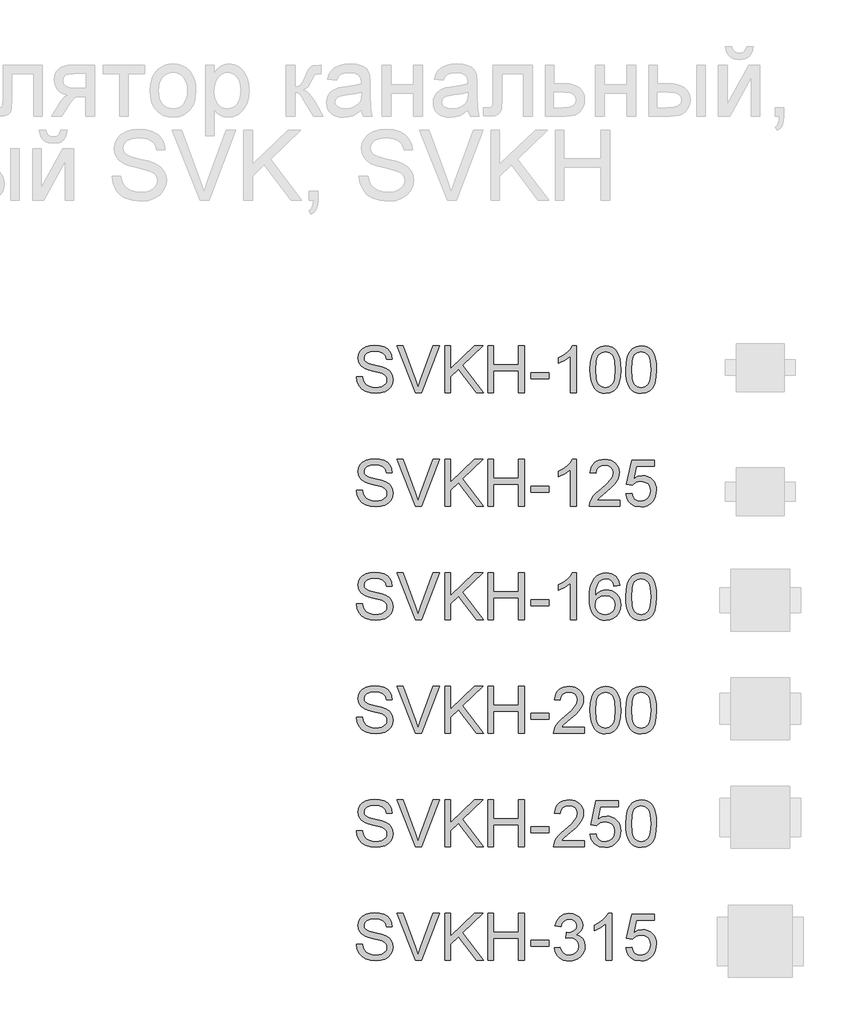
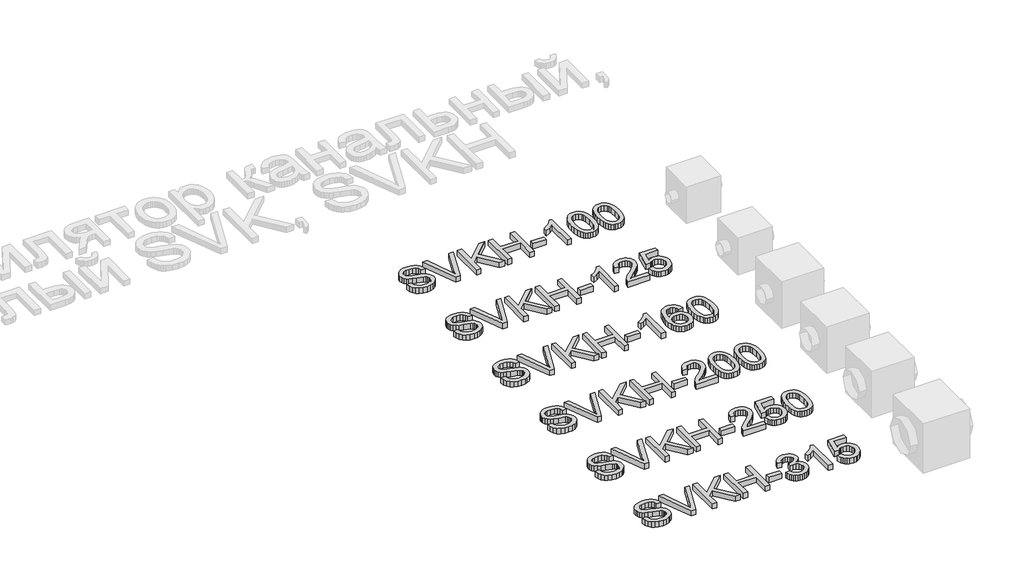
# One storey, part 16 of 31: 1 proxy.
"""IFC4 building model written with IfcOpenShell, lengths in millimetres."""

from ifc_helpers import new_model, si_unit, origin, origin_with_axes, place, context, project, spatial, polyline, outline, extrude, element, save

model = new_model("IFC4")

# Units and contexts
model_context = context("Model", 3, world=origin())
ifc_project = project(units=[si_unit("LENGTHUNIT", "METRE", prefix="MILLI")], contexts=[model_context])

# Site, building, storey
site = spatial("IfcSite", under=ifc_project)
building = spatial("IfcBuilding", under=site)
storey = spatial("IfcBuildingStorey", under=building, Name="Этаж 01", Elevation=0.0)

# Proxy
placement = place(None, origin())
element("IfcBuildingElementProxy", 1, Name="300 мм Arial", ObjectType="300 мм Arial", at=placement, inside=storey, context=model_context, shape_type="SweptSolid", body=[
    extrude(outline(polyline([(4862.603324, -4158.3827282), (4900.2744403, -4158.3827282), (4904.5970538, -4179.2876225), (4912.4145462, -4196.0906327), (4924.6098343, -4209.426355), (4942.065835, -4219.9293859), (4963.4029907, -4226.7443999), (4987.241744, -4229.0160712), (5008.2294118, -4227.2962229), (5026.6051175, -4222.1366779), (5041.4951412, -4213.9696976), (5052.0257633, -4203.2275434), (5058.2889543, -4190.8942995), (5060.3766846, -4177.9540503), (5058.8131861, -4165.3448949), (5054.1226907, -4154.4463908), (5044.594547, -4145.1481734), (5028.5181038, -4137.339878), (4973.6668984, -4122.955692), (4937.6604481, -4113.4367454), (4914.6218381, -4104.3776513), (4895.8690534, -4091.7041165), (4882.5793163, -4076.3450432), (4874.6606564, -4058.6315252), (4872.0211031, -4038.8946561), (4875.2860558, -4016.8309335), (4885.0809139, -3996.2571329), (4901.1481601, -3978.8195263), (4923.2302768, -3966.1643857), (4949.7361746, -3958.4664549), (4979.0747637, -3955.900478), (5010.8597681, -3958.5860166), (5038.6716469, -3966.6426323), (5061.5171188, -3979.9047782), (5078.4029024, -3998.2069075), (5089.0898743, -4020.4085859), (5093.3389114, -4045.3693792), (5055.6677951, -4045.3693792), (5048.7516136, -4022.8917893), (5034.3306394, -4006.6681933), (5011.7978672, -3996.8457441), (4980.5462917, -3993.5715943), (4948.5589522, -3996.8089559), (4926.6147912, -4006.5210405), (4913.9228623, -4020.8132561), (4909.6922194, -4037.7910101), (4912.6904577, -4052.2671666), (4921.6851724, -4063.9106318), (4942.9487518, -4074.3216923), (4983.195042, -4084.9534819), (5024.7289193, -4095.0518427), (5049.8552596, -4103.8626165), (5071.330371, -4117.5294326), (5086.3123653, -4134.3968221), (5095.113942, -4154.2808439), (5098.0478009, -4176.9975571), (5094.6724836, -4200.2201081), (5084.5465317, -4222.0631015), (5068.0838124, -4240.8618715), (5045.698193, -4254.9517519), (5018.778428, -4263.7533286), (4988.713272, -4266.6871875), (4951.8055108, -4263.5234024), (4921.427655, -4254.0320469), (4897.2302168, -4238.1763329), (4878.8637082, -4215.9194722), (4867.0730903, -4188.8065692), (4862.603324, -4158.3827282)])), origin_with_axes(), (0.0, 0.0, 1.0), 50.0),
    extrude(outline(polyline([(5243.5819182, -4261.978298), (5123.6523878, -3960.6093675), (5163.9722545, -3960.6093675), (5244.2441058, -4177.7333211), (5260.50449, -4226.6616265), (5276.544145, -4177.7333211), (5357.0367255, -3960.6093675), (5397.3565922, -3960.6093675), (5282.5038333, -4261.978298), (5243.5819182, -4261.978298)])), origin_with_axes(), (0.0, 0.0, 1.0), 50.0),
    extrude(outline(polyline([(5432.3789581, -4261.978298), (5432.3789581, -3960.6093675), (5470.0500744, -3960.6093675), (5470.0500744, -4108.1300476), (5624.5605124, -3960.6093675), (5677.2412141, -3960.6093675), (5547.5260226, -4084.5120235), (5681.9501037, -4261.978298), (5635.8912779, -4261.978298), (5520.8177898, -4109.9694576), (5470.0500744, -4158.3827282), (5470.0500744, -4261.978298), (5432.3789581, -4261.978298)])), origin_with_axes(), (0.0, 0.0, 1.0), 50.0),
    extrude(outline(polyline([(5710.2034409, -4261.978298), (5710.2034409, -3960.6093675), (5747.8745572, -3960.6093675), (5747.8745572, -4083.0404955), (5907.9768015, -4083.0404955), (5907.9768015, -3960.6093675), (5945.6479178, -3960.6093675), (5945.6479178, -4261.978298), (5907.9768015, -4261.978298), (5907.9768015, -4120.7116118), (5747.8745572, -4120.7116118), (5747.8745572, -4261.978298), (5710.2034409, -4261.978298)])), origin_with_axes(), (0.0, 0.0, 1.0), 50.0),
    extrude(outline(polyline([(5988.0279237, -4172.5093968), (5988.0279237, -4134.8382805), (6105.7501621, -4134.8382805), (6105.7501621, -4172.5093968), (5988.0279237, -4172.5093968)])), origin_with_axes(), (0.0, 0.0, 1.0), 50.0),
    extrude(outline(polyline([(6279.979075, -4261.978298), (6242.3079587, -4261.978298), (6242.3079587, -4027.1224323), (6206.6234052, -4052.5430781), (6166.9657261, -4071.5625773), (6166.9657261, -4035.9516002), (6196.5526356, -4019.8567629), (6222.1848136, -4000.708505), (6242.3907322, -3980.3462366), (6255.6988633, -3960.6093675), (6279.979075, -3960.6093675), (6279.979075, -4261.978298)])), origin_with_axes(), (0.0, 0.0, 1.0), 50.0),
    extrude(outline(polyline([(6369.4479763, -4113.7218539), (6372.2162883, -4065.4833273), (6380.5212243, -4027.0120677), (6394.2800109, -3997.7194638), (6413.4098747, -3977.0169045), (6438.0487713, -3964.7112518), (6468.3346566, -3960.6093675), (6491.5480105, -3963.0373887), (6512.3333432, -3970.3214522), (6529.7157675, -3982.1764495), (6542.720396, -3998.3172721), (6552.5428453, -4018.6059641), (6560.3787318, -4042.9045699), (6565.5106856, -4073.7606722), (6567.2213369, -4113.7218539), (6564.480616, -4161.6844691), (6556.2584534, -4200.0637582), (6542.5824402, -4229.3839532), (6523.4801676, -4250.1692859), (6498.7860887, -4262.5577121), (6468.3346566, -4266.6871875), (6447.586112, -4264.8937628), (6429.1920123, -4259.5134886), (6413.1523573, -4250.546365), (6399.4671471, -4237.9923919), (6386.3337598, -4215.2986713), (6376.952769, -4187.0223415), (6371.3241744, -4153.1634023), (6369.4479763, -4113.7218539)]), holes=[polyline([(6407.1190926, -4113.6482775), (6411.5336765, -4172.9048699), (6417.0519064, -4193.1728686), (6424.7774283, -4207.2006689), (6444.4959033, -4223.5622206), (6468.3346566, -4229.0160712), (6492.1734098, -4223.5438265), (6511.8918848, -4207.1270925), (6519.6174067, -4193.0762996), (6525.1356366, -4172.8128994), (6529.5502206, -4113.6482775), (6525.2827894, -4055.7252574), (6519.9485005, -4035.5239373), (6512.480496, -4021.162744), (6492.7988092, -4004.0010489), (6467.8931982, -3998.2804839), (6444.3119623, -4003.3204672), (6425.3660395, -4018.4404172), (6417.3830002, -4034.075402), (6411.6808293, -4055.1550403), (6407.1190926, -4113.6482775)])]), origin_with_axes(), (0.0, 0.0, 1.0), 50.0),
    extrude(outline(polyline([(6600.1835636, -4113.7218539), (6602.9518756, -4065.4833273), (6611.2568117, -4027.0120677), (6625.0155983, -3997.7194638), (6644.1454621, -3977.0169045), (6668.7843587, -3964.7112518), (6699.0702439, -3960.6093675), (6722.2835978, -3963.0373887), (6743.0689306, -3970.3214522), (6760.4513548, -3982.1764495), (6773.4559834, -3998.3172721), (6783.2784326, -4018.6059641), (6791.1143191, -4042.9045699), (6796.246273, -4073.7606722), (6797.9569242, -4113.7218539), (6795.2162034, -4161.6844691), (6786.9940408, -4200.0637582), (6773.3180276, -4229.3839532), (6754.215755, -4250.1692859), (6729.5216761, -4262.5577121), (6699.0702439, -4266.6871875), (6678.3216994, -4264.8937628), (6659.9275996, -4259.5134886), (6643.8879447, -4250.546365), (6630.2027344, -4237.9923919), (6617.0693472, -4215.2986713), (6607.6883563, -4187.0223415), (6602.0597618, -4153.1634023), (6600.1835636, -4113.7218539)]), holes=[polyline([(6637.8546799, -4113.6482775), (6642.2692639, -4172.9048699), (6647.7874938, -4193.1728686), (6655.5130157, -4207.2006689), (6675.2314906, -4223.5622206), (6699.0702439, -4229.0160712), (6722.9089972, -4223.5438265), (6742.6274722, -4207.1270925), (6750.3529941, -4193.0762996), (6755.871224, -4172.8128994), (6760.2858079, -4113.6482775), (6756.0183768, -4055.7252574), (6750.6840879, -4035.5239373), (6743.2160834, -4021.162744), (6723.5343966, -4004.0010489), (6698.6287855, -3998.2804839), (6675.0475496, -4003.3204672), (6656.1016269, -4018.4404172), (6648.1185876, -4034.075402), (6642.4164167, -4055.1550403), (6637.8546799, -4113.6482775)])]), origin_with_axes(), (0.0, 0.0, 1.0), 50.0),
    extrude(outline(polyline([(4862.603324, -4890.2316352), (4900.2744403, -4890.2316352), (4904.5970538, -4911.1365296), (4912.4145462, -4927.9395397), (4924.6098343, -4941.2752621), (4942.065835, -4951.778293), (4963.4029907, -4958.593307), (4987.241744, -4960.8649783), (5008.2294118, -4959.14513), (5026.6051175, -4953.985585), (5041.4951412, -4945.8186047), (5052.0257633, -4935.0764504), (5058.2889543, -4922.7432065), (5060.3766846, -4909.8029574), (5058.8131861, -4897.193802), (5054.1226907, -4886.2952979), (5044.594547, -4876.9970804), (5028.5181038, -4869.1887851), (4973.6668984, -4854.8045991), (4937.6604481, -4845.2856525), (4914.6218381, -4836.2265583), (4895.8690534, -4823.5530236), (4882.5793163, -4808.1939503), (4874.6606564, -4790.4804322), (4872.0211031, -4770.7435632), (4875.2860558, -4748.6798405), (4885.0809139, -4728.1060399), (4901.1481601, -4710.6684334), (4923.2302768, -4698.0132927), (4949.7361746, -4690.315362), (4979.0747637, -4687.7493851), (5010.8597681, -4690.4349236), (5038.6716469, -4698.4915393), (5061.5171188, -4711.7536853), (5078.4029024, -4730.0558145), (5089.0898743, -4752.2574929), (5093.3389114, -4777.2182863), (5055.6677951, -4777.2182863), (5048.7516136, -4754.7406964), (5034.3306394, -4738.5171004), (5011.7978672, -4728.6946511), (4980.5462917, -4725.4205014), (4948.5589522, -4728.6578629), (4926.6147912, -4738.3699476), (4913.9228623, -4752.6621631), (4909.6922194, -4769.6399172), (4912.6904577, -4784.1160737), (4921.6851724, -4795.7595389), (4942.9487518, -4806.1705993), (4983.195042, -4816.802389), (5024.7289193, -4826.9007498), (5049.8552596, -4835.7115235), (5071.330371, -4849.3783397), (5086.3123653, -4866.2457291), (5095.113942, -4886.129751), (5098.0478009, -4908.8464642), (5094.6724836, -4932.0690151), (5084.5465317, -4953.9120086), (5068.0838124, -4972.7107785), (5045.698193, -4986.800659), (5018.778428, -4995.6022357), (4988.713272, -4998.5360946), (4951.8055108, -4995.3723094), (4921.427655, -4985.880954), (4897.2302168, -4970.02524), (4878.8637082, -4947.7683793), (4867.0730903, -4920.6554762), (4862.603324, -4890.2316352)])), origin_with_axes(), (0.0, 0.0, 1.0), 50.0),
    extrude(outline(polyline([(5243.5819182, -4993.8272051), (5123.6523878, -4692.4582746), (5163.9722545, -4692.4582746), (5244.2441058, -4909.5822282), (5260.50449, -4958.5105335), (5276.544145, -4909.5822282), (5357.0367255, -4692.4582746), (5397.3565922, -4692.4582746), (5282.5038333, -4993.8272051), (5243.5819182, -4993.8272051)])), origin_with_axes(), (0.0, 0.0, 1.0), 50.0),
    extrude(outline(polyline([(5432.3789581, -4993.8272051), (5432.3789581, -4692.4582746), (5470.0500744, -4692.4582746), (5470.0500744, -4839.9789547), (5624.5605124, -4692.4582746), (5677.2412141, -4692.4582746), (5547.5260226, -4816.3609306), (5681.9501037, -4993.8272051), (5635.8912779, -4993.8272051), (5520.8177898, -4841.8183647), (5470.0500744, -4890.2316352), (5470.0500744, -4993.8272051), (5432.3789581, -4993.8272051)])), origin_with_axes(), (0.0, 0.0, 1.0), 50.0),
    extrude(outline(polyline([(5710.2034409, -4993.8272051), (5710.2034409, -4692.4582746), (5747.8745572, -4692.4582746), (5747.8745572, -4814.8894026), (5907.9768015, -4814.8894026), (5907.9768015, -4692.4582746), (5945.6479178, -4692.4582746), (5945.6479178, -4993.8272051), (5907.9768015, -4993.8272051), (5907.9768015, -4852.5605189), (5747.8745572, -4852.5605189), (5747.8745572, -4993.8272051), (5710.2034409, -4993.8272051)])), origin_with_axes(), (0.0, 0.0, 1.0), 50.0),
    extrude(outline(polyline([(5988.0279237, -4904.3583038), (5988.0279237, -4866.6871875), (6105.7501621, -4866.6871875), (6105.7501621, -4904.3583038), (5988.0279237, -4904.3583038)])), origin_with_axes(), (0.0, 0.0, 1.0), 50.0),
    extrude(outline(polyline([(6279.979075, -4993.8272051), (6242.3079587, -4993.8272051), (6242.3079587, -4758.9713393), (6206.6234052, -4784.3919852), (6166.9657261, -4803.4114844), (6166.9657261, -4767.8005072), (6196.5526356, -4751.7056699), (6222.1848136, -4732.5574121), (6242.3907322, -4712.1951437), (6255.6988633, -4692.4582746), (6279.979075, -4692.4582746), (6279.979075, -4993.8272051)])), origin_with_axes(), (0.0, 0.0, 1.0), 50.0),
    extrude(outline(polyline([(6562.5124473, -4956.1560888), (6562.5124473, -4993.8272051), (6364.7390867, -4993.8272051), (6368.7857887, -4967.8547362), (6378.074809, -4947.5568471), (6391.6680488, -4927.8659633), (6411.3313414, -4907.2553746), (6438.8305205, -4884.1983705), (6479.481481, -4848.0907527), (6503.8720573, -4821.4377021), (6516.0673454, -4799.8062408), (6520.1324415, -4778.7633907), (6516.2972717, -4759.9002414), (6504.7917623, -4744.2192713), (6487.1058354, -4733.651861), (6464.729413, -4730.1293909), (6441.2309506, -4733.5690876), (6422.9748066, -4743.8881775), (6411.1933857, -4760.2773204), (6407.1190926, -4781.9271758), (6369.4479763, -4777.2182863), (6378.5806468, -4740.7795747), (6387.1270054, -4726.2436373), (6398.3267129, -4714.1633123), (6411.9222519, -4704.6673583), (6427.6561049, -4697.884534), (6465.5387534, -4692.4582746), (6485.7285771, -4693.9665908), (6503.6973133, -4698.4915393), (6519.444962, -4706.0331202), (6532.9715231, -4716.5913335), (6543.8355383, -4729.3844299), (6551.5955491, -4743.6306601), (6556.2515556, -4759.3300243), (6557.8035578, -4776.4825223), (6556.1296947, -4794.499543), (6551.1081055, -4812.203864), (6542.1961641, -4830.2116877), (6528.8512448, -4849.1392164), (6507.5784684, -4871.7363679), (6474.8829561, -4900.7530603), (6431.546457, -4936.9894368), (6414.5503089, -4956.1560888), (6562.5124473, -4956.1560888)])), origin_with_axes(), (0.0, 0.0, 1.0), 50.0),
    extrude(outline(polyline([(6600.1835636, -4913.7760829), (6637.8546799, -4909.0671934), (6644.7708614, -4931.682739), (6656.8373909, -4947.8787439), (6673.999086, -4957.6184197), (6696.2007644, -4960.8649783), (6723.2033028, -4956.3492268), (6743.4368126, -4942.8019723), (6756.0735591, -4921.7867134), (6760.2858079, -4894.8669484), (6756.3402735, -4869.5198789), (6744.5036703, -4850.1324977), (6724.6840278, -4837.826845), (6696.7893756, -4833.7249608), (6678.5148375, -4835.3620356), (6663.7167842, -4840.2732603), (6642.5635695, -4857.2694085), (6604.8924532, -4852.5605189), (6637.8546799, -4697.1671642), (6783.8302556, -4697.1671642), (6783.8302556, -4734.8382805), (6668.3153091, -4734.8382805), (6652.2020777, -4817.8324586), (6679.1126457, -4801.498498), (6707.3108006, -4796.0538445), (6725.6566159, -4797.7415031), (6742.5079105, -4802.8044791), (6757.8646845, -4811.2427723), (6771.726938, -4823.0563829), (6783.202557, -4837.5233424), (6791.3994277, -4853.9216823), (6796.3175501, -4872.2514027), (6797.9569242, -4892.5125036), (6792.0524182, -4930.1836199), (6784.6717857, -4946.977433), (6774.3389001, -4962.4100827), (6758.6855213, -4978.2152129), (6740.4201802, -4989.5045916), (6719.542877, -4996.2782189), (6696.0536116, -4998.5360946), (6659.0538799, -4992.7327561), (6643.3752091, -4985.478583), (6629.577335, -4975.3227407), (6618.0971175, -4962.7710669), (6609.3714165, -4948.3293993), (6600.1835636, -4913.7760829)])), origin_with_axes(), (0.0, 0.0, 1.0), 50.0),
    extrude(outline(polyline([(4862.603324, -5622.0805423), (4900.2744403, -5622.0805423), (4904.5970538, -5642.9854367), (4912.4145462, -5659.7884468), (4924.6098343, -5673.1241691), (4942.065835, -5683.6272001), (4963.4029907, -5690.442214), (4987.241744, -5692.7138854), (5008.2294118, -5690.994037), (5026.6051175, -5685.8344921), (5041.4951412, -5677.6675118), (5052.0257633, -5666.9253575), (5058.2889543, -5654.5921136), (5060.3766846, -5641.6518644), (5058.8131861, -5629.0427091), (5054.1226907, -5618.1442049), (5044.594547, -5608.8459875), (5028.5181038, -5601.0376922), (4973.6668984, -5586.6535062), (4937.6604481, -5577.1345595), (4914.6218381, -5568.0754654), (4895.8690534, -5555.4019307), (4882.5793163, -5540.0428574), (4874.6606564, -5522.3293393), (4872.0211031, -5502.5924703), (4875.2860558, -5480.5287476), (4885.0809139, -5459.954947), (4901.1481601, -5442.5173404), (4923.2302768, -5429.8621998), (4949.7361746, -5422.1642691), (4979.0747637, -5419.5982921), (5010.8597681, -5422.2838307), (5038.6716469, -5430.3404464), (5061.5171188, -5443.6025923), (5078.4029024, -5461.9047216), (5089.0898743, -5484.1064), (5093.3389114, -5509.0671934), (5055.6677951, -5509.0671934), (5048.7516136, -5486.5896035), (5034.3306394, -5470.3660075), (5011.7978672, -5460.5435582), (4980.5462917, -5457.2694085), (4948.5589522, -5460.50677), (4926.6147912, -5470.2188547), (4913.9228623, -5484.5110702), (4909.6922194, -5501.4888243), (4912.6904577, -5515.9649808), (4921.6851724, -5527.6084459), (4942.9487518, -5538.0195064), (4983.195042, -5548.6512961), (5024.7289193, -5558.7496568), (5049.8552596, -5567.5604306), (5071.330371, -5581.2272467), (5086.3123653, -5598.0946362), (5095.113942, -5617.978658), (5098.0478009, -5640.6953713), (5094.6724836, -5663.9179222), (5084.5465317, -5685.7609157), (5068.0838124, -5704.5596856), (5045.698193, -5718.649566), (5018.778428, -5727.4511428), (4988.713272, -5730.3850017), (4951.8055108, -5727.2212165), (4921.427655, -5717.729861), (4897.2302168, -5701.874147), (4878.8637082, -5679.6172863), (4867.0730903, -5652.5043833), (4862.603324, -5622.0805423)])), origin_with_axes(), (0.0, 0.0, 1.0), 50.0),
    extrude(outline(polyline([(5243.5819182, -5725.6761121), (5123.6523878, -5424.3071817), (5163.9722545, -5424.3071817), (5244.2441058, -5641.4311352), (5260.50449, -5690.3594406), (5276.544145, -5641.4311352), (5357.0367255, -5424.3071817), (5397.3565922, -5424.3071817), (5282.5038333, -5725.6761121), (5243.5819182, -5725.6761121)])), origin_with_axes(), (0.0, 0.0, 1.0), 50.0),
    extrude(outline(polyline([(5432.3789581, -5725.6761121), (5432.3789581, -5424.3071817), (5470.0500744, -5424.3071817), (5470.0500744, -5571.8278618), (5624.5605124, -5424.3071817), (5677.2412141, -5424.3071817), (5547.5260226, -5548.2098377), (5681.9501037, -5725.6761121), (5635.8912779, -5725.6761121), (5520.8177898, -5573.6672717), (5470.0500744, -5622.0805423), (5470.0500744, -5725.6761121), (5432.3789581, -5725.6761121)])), origin_with_axes(), (0.0, 0.0, 1.0), 50.0),
    extrude(outline(polyline([(5710.2034409, -5725.6761121), (5710.2034409, -5424.3071817), (5747.8745572, -5424.3071817), (5747.8745572, -5546.7383097), (5907.9768015, -5546.7383097), (5907.9768015, -5424.3071817), (5945.6479178, -5424.3071817), (5945.6479178, -5725.6761121), (5907.9768015, -5725.6761121), (5907.9768015, -5584.409426), (5747.8745572, -5584.409426), (5747.8745572, -5725.6761121), (5710.2034409, -5725.6761121)])), origin_with_axes(), (0.0, 0.0, 1.0), 50.0),
    extrude(outline(polyline([(5988.0279237, -5636.2072109), (5988.0279237, -5598.5360946), (6105.7501621, -5598.5360946), (6105.7501621, -5636.2072109), (5988.0279237, -5636.2072109)])), origin_with_axes(), (0.0, 0.0, 1.0), 50.0),
    extrude(outline(polyline([(6279.979075, -5725.6761121), (6242.3079587, -5725.6761121), (6242.3079587, -5490.8202464), (6206.6234052, -5516.2408923), (6166.9657261, -5535.2603914), (6166.9657261, -5499.6494143), (6196.5526356, -5483.554577), (6222.1848136, -5464.4063192), (6242.3907322, -5444.0440507), (6255.6988633, -5424.3071817), (6279.979075, -5424.3071817), (6279.979075, -5725.6761121)])), origin_with_axes(), (0.0, 0.0, 1.0), 50.0),
    extrude(outline(polyline([(6562.5124473, -5504.3583038), (6524.841331, -5509.0671934), (6518.7712781, -5490.3971821), (6510.5675096, -5477.650071), (6493.4793909, -5465.8962412), (6472.8228169, -5461.978298), (6455.3116339, -5464.2591664), (6438.8305205, -5471.1017715), (6424.6762608, -5485.5135486), (6413.1155691, -5505.3515852), (6405.3072737, -5533.4117844), (6402.410203, -5572.4900493), (6417.520956, -5554.8593047), (6435.6299472, -5542.4340903), (6455.7255012, -5535.0672534), (6476.7959424, -5532.6116411), (6494.8957366, -5534.2901027), (6511.5975792, -5539.3254875), (6526.9014702, -5547.7177955), (6540.8074096, -5559.4670267), (6552.3635028, -5573.8742054), (6560.617855, -5590.2403556), (6565.5704664, -5608.5654775), (6567.2213369, -5628.849571), (6564.112734, -5655.8245183), (6554.7869254, -5680.8312969), (6540.0164633, -5702.0396939), (6520.5738999, -5717.6194964), (6497.3421519, -5727.1936254), (6471.2041361, -5730.3850017), (6448.7472396, -5728.2696802), (6428.4654453, -5721.9237158), (6410.3587534, -5711.3471084), (6394.4271637, -5696.5398581), (6381.43863, -5676.8765655), (6372.161106, -5651.7318311), (6366.5945915, -5621.105655), (6364.7390867, -5584.9980372), (6366.7992259, -5544.5172221), (6372.9796434, -5509.9685043), (6383.2803393, -5481.3518836), (6397.7013135, -5458.66736), (6413.3316998, -5443.634782), (6431.4544865, -5432.8972263), (6452.0696738, -5426.4546928), (6475.1772617, -5424.3071817), (6508.2314589, -5429.6230765), (6534.7005685, -5445.570761), (6553.241821, -5470.8994364), (6562.5124473, -5504.3583038)]), holes=[polyline([(6402.410203, -5628.2609598), (6404.5899038, -5644.9536053), (6411.1290063, -5660.8920928), (6421.2825494, -5674.5956971), (6434.305572, -5684.5836933), (6450.0233302, -5690.6813373), (6468.2610802, -5692.7138854), (6493.120706, -5688.5016365), (6512.664437, -5675.86489), (6525.3287747, -5655.9992623), (6529.5502206, -5630.1003698), (6525.383957, -5605.240744), (6512.8851662, -5586.2856242), (6493.0103414, -5574.2834741), (6466.7159758, -5570.2827574), (6441.8931382, -5574.2834741), (6421.1353966, -5586.2856242), (6407.0915014, -5604.7808915), (6402.410203, -5628.2609598)])]), origin_with_axes(), (0.0, 0.0, 1.0), 50.0),
    extrude(outline(polyline([(6600.1835636, -5577.4196681), (6602.9518756, -5529.1811415), (6611.2568117, -5490.7098818), (6625.0155983, -5461.417278), (6644.1454621, -5440.7147187), (6668.7843587, -5428.4090659), (6699.0702439, -5424.3071817), (6722.2835978, -5426.7352029), (6743.0689306, -5434.0192664), (6760.4513548, -5445.8742637), (6773.4559834, -5462.0150862), (6783.2784326, -5482.3037782), (6791.1143191, -5506.602384), (6796.246273, -5537.4584864), (6797.9569242, -5577.4196681), (6795.2162034, -5625.3822832), (6786.9940408, -5663.7615723), (6773.3180276, -5693.0817674), (6754.215755, -5713.8671001), (6729.5216761, -5726.2555263), (6699.0702439, -5730.3850017), (6678.3216994, -5728.5915769), (6659.9275996, -5723.2113028), (6643.8879447, -5714.2441791), (6630.2027344, -5701.6902061), (6617.0693472, -5678.9964855), (6607.6883563, -5650.7201556), (6602.0597618, -5616.8612165), (6600.1835636, -5577.4196681)]), holes=[polyline([(6637.8546799, -5577.3460917), (6642.2692639, -5636.6026841), (6647.7874938, -5656.8706827), (6655.5130157, -5670.8984831), (6675.2314906, -5687.2600348), (6699.0702439, -5692.7138854), (6722.9089972, -5687.2416407), (6742.6274722, -5670.8249067), (6750.3529941, -5656.7741137), (6755.871224, -5636.5107136), (6760.2858079, -5577.3460917), (6756.0183768, -5519.4230715), (6750.6840879, -5499.2217515), (6743.2160834, -5484.8605581), (6723.5343966, -5467.698863), (6698.6287855, -5461.978298), (6675.0475496, -5467.0182813), (6656.1016269, -5482.1382313), (6648.1185876, -5497.7732161), (6642.4164167, -5518.8528544), (6637.8546799, -5577.3460917)])]), origin_with_axes(), (0.0, 0.0, 1.0), 50.0),
    extrude(outline(polyline([(4862.603324, -6353.9294494), (4900.2744403, -6353.9294494), (4904.5970538, -6374.8343437), (4912.4145462, -6391.6373539), (4924.6098343, -6404.9730762), (4942.065835, -6415.4761072), (4963.4029907, -6422.2911211), (4987.241744, -6424.5627924), (5008.2294118, -6422.8429441), (5026.6051175, -6417.6833991), (5041.4951412, -6409.5164188), (5052.0257633, -6398.7742646), (5058.2889543, -6386.4410207), (5060.3766846, -6373.5007715), (5058.8131861, -6360.8916161), (5054.1226907, -6349.993112), (5044.594547, -6340.6948946), (5028.5181038, -6332.8865992), (4973.6668984, -6318.5024132), (4937.6604481, -6308.9834666), (4914.6218381, -6299.9243725), (4895.8690534, -6287.2508377), (4882.5793163, -6271.8917644), (4874.6606564, -6254.1782464), (4872.0211031, -6234.4413773), (4875.2860558, -6212.3776547), (4885.0809139, -6191.8038541), (4901.1481601, -6174.3662475), (4923.2302768, -6161.7111069), (4949.7361746, -6154.0131761), (4979.0747637, -6151.4471992), (5010.8597681, -6154.1327378), (5038.6716469, -6162.1893535), (5061.5171188, -6175.4514994), (5078.4029024, -6193.7536287), (5089.0898743, -6215.9553071), (5093.3389114, -6240.9161004), (5055.6677951, -6240.9161004), (5048.7516136, -6218.4385105), (5034.3306394, -6202.2149146), (5011.7978672, -6192.3924653), (4980.5462917, -6189.1183155), (4948.5589522, -6192.3556771), (4926.6147912, -6202.0677618), (4913.9228623, -6216.3599773), (4909.6922194, -6233.3377313), (4912.6904577, -6247.8138879), (4921.6851724, -6259.457353), (4942.9487518, -6269.8684135), (4983.195042, -6280.5002031), (5024.7289193, -6290.5985639), (5049.8552596, -6299.4093377), (5071.330371, -6313.0761538), (5086.3123653, -6329.9435433), (5095.113942, -6349.8275651), (5098.0478009, -6372.5442783), (5094.6724836, -6395.7668293), (5084.5465317, -6417.6098227), (5068.0838124, -6436.4085927), (5045.698193, -6450.4984731), (5018.778428, -6459.3000498), (4988.713272, -6462.2339087), (4951.8055108, -6459.0701236), (4921.427655, -6449.5787681), (4897.2302168, -6433.7230541), (4878.8637082, -6411.4661934), (4867.0730903, -6384.3532904), (4862.603324, -6353.9294494)])), origin_with_axes(), (0.0, 0.0, 1.0), 50.0),
    extrude(outline(polyline([(5243.5819182, -6457.5250192), (5123.6523878, -6156.1560888), (5163.9722545, -6156.1560888), (5244.2441058, -6373.2800423), (5260.50449, -6422.2083477), (5276.544145, -6373.2800423), (5357.0367255, -6156.1560888), (5397.3565922, -6156.1560888), (5282.5038333, -6457.5250192), (5243.5819182, -6457.5250192)])), origin_with_axes(), (0.0, 0.0, 1.0), 50.0),
    extrude(outline(polyline([(5432.3789581, -6457.5250192), (5432.3789581, -6156.1560888), (5470.0500744, -6156.1560888), (5470.0500744, -6303.6767688), (5624.5605124, -6156.1560888), (5677.2412141, -6156.1560888), (5547.5260226, -6280.0587447), (5681.9501037, -6457.5250192), (5635.8912779, -6457.5250192), (5520.8177898, -6305.5161788), (5470.0500744, -6353.9294494), (5470.0500744, -6457.5250192), (5432.3789581, -6457.5250192)])), origin_with_axes(), (0.0, 0.0, 1.0), 50.0),
    extrude(outline(polyline([(5710.2034409, -6457.5250192), (5710.2034409, -6156.1560888), (5747.8745572, -6156.1560888), (5747.8745572, -6278.5872168), (5907.9768015, -6278.5872168), (5907.9768015, -6156.1560888), (5945.6479178, -6156.1560888), (5945.6479178, -6457.5250192), (5907.9768015, -6457.5250192), (5907.9768015, -6316.2583331), (5747.8745572, -6316.2583331), (5747.8745572, -6457.5250192), (5710.2034409, -6457.5250192)])), origin_with_axes(), (0.0, 0.0, 1.0), 50.0),
    extrude(outline(polyline([(5988.0279237, -6368.056118), (5988.0279237, -6330.3850017), (6105.7501621, -6330.3850017), (6105.7501621, -6368.056118), (5988.0279237, -6368.056118)])), origin_with_axes(), (0.0, 0.0, 1.0), 50.0),
    extrude(outline(polyline([(6331.7768599, -6419.8539029), (6331.7768599, -6457.5250192), (6134.0034993, -6457.5250192), (6138.0502013, -6431.5525503), (6147.3392217, -6411.2546613), (6160.9324614, -6391.5637775), (6180.595754, -6370.9531887), (6208.0949332, -6347.8961846), (6248.7458936, -6311.7885668), (6273.1364699, -6285.1355163), (6285.3317581, -6263.504055), (6289.3968541, -6242.4612048), (6285.5616843, -6223.5980555), (6274.0561749, -6207.9170855), (6256.370248, -6197.3496752), (6233.9938256, -6193.8272051), (6210.4953632, -6197.2669017), (6192.2392192, -6207.5859917), (6180.4577983, -6223.9751346), (6176.3835052, -6245.62499), (6138.7123889, -6240.9161004), (6147.8450594, -6204.4773888), (6156.391418, -6189.9414515), (6167.5911255, -6177.8611265), (6181.1866645, -6168.3651725), (6196.9205176, -6161.5823482), (6234.803166, -6156.1560888), (6254.9929898, -6157.6644049), (6272.961726, -6162.1893535), (6288.7093746, -6169.7309344), (6302.2359357, -6180.2891476), (6313.0999509, -6193.082244), (6320.8599617, -6207.3284743), (6325.5159682, -6223.0278384), (6327.0679704, -6240.1803365), (6325.3941073, -6258.1973572), (6320.3725181, -6275.9016782), (6311.4605768, -6293.9095019), (6298.1156574, -6312.8370305), (6276.842881, -6335.4341821), (6244.1473687, -6364.4508744), (6200.8108697, -6400.687251), (6183.8147215, -6419.8539029), (6331.7768599, -6419.8539029)])), origin_with_axes(), (0.0, 0.0, 1.0), 50.0),
    extrude(outline(polyline([(6369.4479763, -6309.2685752), (6372.2162883, -6261.0300485), (6380.5212243, -6222.5587889), (6394.2800109, -6193.266185), (6413.4098747, -6172.5636257), (6438.0487713, -6160.257973), (6468.3346566, -6156.1560888), (6491.5480105, -6158.5841099), (6512.3333432, -6165.8681734), (6529.7157675, -6177.7231707), (6542.720396, -6193.8639933), (6552.5428453, -6214.1526853), (6560.3787318, -6238.4512911), (6565.5106856, -6269.3073934), (6567.2213369, -6309.2685752), (6564.480616, -6357.2311903), (6556.2584534, -6395.6104794), (6542.5824402, -6424.9306744), (6523.4801676, -6445.7160072), (6498.7860887, -6458.1044334), (6468.3346566, -6462.2339087), (6447.586112, -6460.440484), (6429.1920123, -6455.0602098), (6413.1523573, -6446.0930862), (6399.4671471, -6433.5391131), (6386.3337598, -6410.8453925), (6376.952769, -6382.5690627), (6371.3241744, -6348.7101236), (6369.4479763, -6309.2685752)]), holes=[polyline([(6407.1190926, -6309.1949988), (6411.5336765, -6368.4515911), (6417.0519064, -6388.7195898), (6424.7774283, -6402.7473901), (6444.4959033, -6419.1089419), (6468.3346566, -6424.5627924), (6492.1734098, -6419.0905478), (6511.8918848, -6402.6738137), (6519.6174067, -6388.6230208), (6525.1356366, -6368.3596206), (6529.5502206, -6309.1949988), (6525.2827894, -6251.2719786), (6519.9485005, -6231.0706586), (6512.480496, -6216.7094652), (6492.7988092, -6199.5477701), (6467.8931982, -6193.8272051), (6444.3119623, -6198.8671884), (6425.3660395, -6213.9871384), (6417.3830002, -6229.6221232), (6411.6808293, -6250.7017615), (6407.1190926, -6309.1949988)])]), origin_with_axes(), (0.0, 0.0, 1.0), 50.0),
    extrude(outline(polyline([(6600.1835636, -6309.2685752), (6602.9518756, -6261.0300485), (6611.2568117, -6222.5587889), (6625.0155983, -6193.266185), (6644.1454621, -6172.5636257), (6668.7843587, -6160.257973), (6699.0702439, -6156.1560888), (6722.2835978, -6158.5841099), (6743.0689306, -6165.8681734), (6760.4513548, -6177.7231707), (6773.4559834, -6193.8639933), (6783.2784326, -6214.1526853), (6791.1143191, -6238.4512911), (6796.246273, -6269.3073934), (6797.9569242, -6309.2685752), (6795.2162034, -6357.2311903), (6786.9940408, -6395.6104794), (6773.3180276, -6424.9306744), (6754.215755, -6445.7160072), (6729.5216761, -6458.1044334), (6699.0702439, -6462.2339087), (6678.3216994, -6460.440484), (6659.9275996, -6455.0602098), (6643.8879447, -6446.0930862), (6630.2027344, -6433.5391131), (6617.0693472, -6410.8453925), (6607.6883563, -6382.5690627), (6602.0597618, -6348.7101236), (6600.1835636, -6309.2685752)]), holes=[polyline([(6637.8546799, -6309.1949988), (6642.2692639, -6368.4515911), (6647.7874938, -6388.7195898), (6655.5130157, -6402.7473901), (6675.2314906, -6419.1089419), (6699.0702439, -6424.5627924), (6722.9089972, -6419.0905478), (6742.6274722, -6402.6738137), (6750.3529941, -6388.6230208), (6755.871224, -6368.3596206), (6760.2858079, -6309.1949988), (6756.0183768, -6251.2719786), (6750.6840879, -6231.0706586), (6743.2160834, -6216.7094652), (6723.5343966, -6199.5477701), (6698.6287855, -6193.8272051), (6675.0475496, -6198.8671884), (6656.1016269, -6213.9871384), (6648.1185876, -6229.6221232), (6642.4164167, -6250.7017615), (6637.8546799, -6309.1949988)])]), origin_with_axes(), (0.0, 0.0, 1.0), 50.0),
    extrude(outline(polyline([(4862.603324, -7085.7783564), (4900.2744403, -7085.7783564), (4904.5970538, -7106.6832508), (4912.4145462, -7123.4862609), (4924.6098343, -7136.8219833), (4942.065835, -7147.3250142), (4963.4029907, -7154.1400282), (4987.241744, -7156.4116995), (5008.2294118, -7154.6918512), (5026.6051175, -7149.5323062), (5041.4951412, -7141.3653259), (5052.0257633, -7130.6231716), (5058.2889543, -7118.2899278), (5060.3766846, -7105.3496786), (5058.8131861, -7092.7405232), (5054.1226907, -7081.8420191), (5044.594547, -7072.5438017), (5028.5181038, -7064.7355063), (4973.6668984, -7050.3513203), (4937.6604481, -7040.8323737), (4914.6218381, -7031.7732795), (4895.8690534, -7019.0997448), (4882.5793163, -7003.7406715), (4874.6606564, -6986.0271534), (4872.0211031, -6966.2902844), (4875.2860558, -6944.2265617), (4885.0809139, -6923.6527612), (4901.1481601, -6906.2151546), (4923.2302768, -6893.560014), (4949.7361746, -6885.8620832), (4979.0747637, -6883.2961063), (5010.8597681, -6885.9816449), (5038.6716469, -6894.0382606), (5061.5171188, -6907.3004065), (5078.4029024, -6925.6025357), (5089.0898743, -6947.8042141), (5093.3389114, -6972.7650075), (5055.6677951, -6972.7650075), (5048.7516136, -6950.2874176), (5034.3306394, -6934.0638216), (5011.7978672, -6924.2413724), (4980.5462917, -6920.9672226), (4948.5589522, -6924.2045842), (4926.6147912, -6933.9166688), (4913.9228623, -6948.2088843), (4909.6922194, -6965.1866384), (4912.6904577, -6979.6627949), (4921.6851724, -6991.3062601), (4942.9487518, -7001.7173205), (4983.195042, -7012.3491102), (5024.7289193, -7022.447471), (5049.8552596, -7031.2582448), (5071.330371, -7044.9250609), (5086.3123653, -7061.7924504), (5095.113942, -7081.6764722), (5098.0478009, -7104.3931854), (5094.6724836, -7127.6157363), (5084.5465317, -7149.4587298), (5068.0838124, -7168.2574998), (5045.698193, -7182.3473802), (5018.778428, -7191.1489569), (4988.713272, -7194.0828158), (4951.8055108, -7190.9190307), (4921.427655, -7181.4276752), (4897.2302168, -7165.5719612), (4878.8637082, -7143.3151005), (4867.0730903, -7116.2021974), (4862.603324, -7085.7783564)])), origin_with_axes(), (0.0, 0.0, 1.0), 50.0),
    extrude(outline(polyline([(5243.5819182, -7189.3739263), (5123.6523878, -6888.0049958), (5163.9722545, -6888.0049958), (5244.2441058, -7105.1289494), (5260.50449, -7154.0572547), (5276.544145, -7105.1289494), (5357.0367255, -6888.0049958), (5397.3565922, -6888.0049958), (5282.5038333, -7189.3739263), (5243.5819182, -7189.3739263)])), origin_with_axes(), (0.0, 0.0, 1.0), 50.0),
    extrude(outline(polyline([(5432.3789581, -7189.3739263), (5432.3789581, -6888.0049958), (5470.0500744, -6888.0049958), (5470.0500744, -7035.5256759), (5624.5605124, -6888.0049958), (5677.2412141, -6888.0049958), (5547.5260226, -7011.9076518), (5681.9501037, -7189.3739263), (5635.8912779, -7189.3739263), (5520.8177898, -7037.3650859), (5470.0500744, -7085.7783564), (5470.0500744, -7189.3739263), (5432.3789581, -7189.3739263)])), origin_with_axes(), (0.0, 0.0, 1.0), 50.0),
    extrude(outline(polyline([(5710.2034409, -7189.3739263), (5710.2034409, -6888.0049958), (5747.8745572, -6888.0049958), (5747.8745572, -7010.4361238), (5907.9768015, -7010.4361238), (5907.9768015, -6888.0049958), (5945.6479178, -6888.0049958), (5945.6479178, -7189.3739263), (5907.9768015, -7189.3739263), (5907.9768015, -7048.1072401), (5747.8745572, -7048.1072401), (5747.8745572, -7189.3739263), (5710.2034409, -7189.3739263)])), origin_with_axes(), (0.0, 0.0, 1.0), 50.0),
    extrude(outline(polyline([(5988.0279237, -7099.9050251), (5988.0279237, -7062.2339087), (6105.7501621, -7062.2339087), (6105.7501621, -7099.9050251), (5988.0279237, -7099.9050251)])), origin_with_axes(), (0.0, 0.0, 1.0), 50.0),
    extrude(outline(polyline([(6331.7768599, -7151.70281), (6331.7768599, -7189.3739263), (6134.0034993, -7189.3739263), (6138.0502013, -7163.4014574), (6147.3392217, -7143.1035683), (6160.9324614, -7123.4126845), (6180.595754, -7102.8020958), (6208.0949332, -7079.7450917), (6248.7458936, -7043.6374739), (6273.1364699, -7016.9844233), (6285.3317581, -6995.352962), (6289.3968541, -6974.3101119), (6285.5616843, -6955.4469626), (6274.0561749, -6939.7659926), (6256.370248, -6929.1985822), (6233.9938256, -6925.6761121), (6210.4953632, -6929.1158088), (6192.2392192, -6939.4348988), (6180.4577983, -6955.8240416), (6176.3835052, -6977.4738971), (6138.7123889, -6972.7650075), (6147.8450594, -6936.3262959), (6156.391418, -6921.7903586), (6167.5911255, -6909.7100335), (6181.1866645, -6900.2140795), (6196.9205176, -6893.4312553), (6234.803166, -6888.0049958), (6254.9929898, -6889.513312), (6272.961726, -6894.0382606), (6288.7093746, -6901.5798415), (6302.2359357, -6912.1380547), (6313.0999509, -6924.9311511), (6320.8599617, -6939.1773814), (6325.5159682, -6954.8767455), (6327.0679704, -6972.0292435), (6325.3941073, -6990.0462642), (6320.3725181, -7007.7505853), (6311.4605768, -7025.7584089), (6298.1156574, -7044.6859376), (6276.842881, -7067.2830891), (6244.1473687, -7096.2997815), (6200.8108697, -7132.536158), (6183.8147215, -7151.70281), (6331.7768599, -7151.70281)])), origin_with_axes(), (0.0, 0.0, 1.0), 50.0),
    extrude(outline(polyline([(6369.4479763, -7109.3228041), (6407.1190926, -7104.6139146), (6414.0352741, -7127.2294602), (6426.1018035, -7143.4254651), (6443.2634986, -7153.1651409), (6465.465177, -7156.4116995), (6492.4677154, -7151.895948), (6512.7012252, -7138.3486935), (6525.3379717, -7117.3334346), (6529.5502206, -7090.4136696), (6525.6046862, -7065.0666001), (6513.768083, -7045.679219), (6493.9484405, -7033.3735662), (6466.0537882, -7029.271682), (6447.7792501, -7030.9087569), (6432.9811968, -7035.8199815), (6411.8279821, -7052.8161297), (6374.1568658, -7048.1072401), (6407.1190926, -6892.7138854), (6553.0946682, -6892.7138854), (6553.0946682, -6930.3850017), (6437.5797218, -6930.3850017), (6421.4664904, -7013.3791798), (6448.3770583, -6997.0452192), (6476.5752132, -6991.6005657), (6494.9210285, -6993.2882243), (6511.7723231, -6998.3512003), (6527.1290972, -7006.7894935), (6540.9913506, -7018.6031041), (6552.4669696, -7033.0700636), (6560.6638403, -7049.4684035), (6565.5819627, -7067.7981239), (6567.2213369, -7088.0592248), (6561.3168308, -7125.7303411), (6553.9361983, -7142.5241542), (6543.6033128, -7157.9568039), (6527.9499339, -7173.7619341), (6509.6845928, -7185.0513128), (6488.8072896, -7191.8249401), (6465.3180242, -7194.0828158), (6428.3182925, -7188.2794773), (6412.6396218, -7181.0253043), (6398.8417477, -7170.8694619), (6387.3615302, -7158.3177881), (6378.6358291, -7143.8761205), (6369.4479763, -7109.3228041)])), origin_with_axes(), (0.0, 0.0, 1.0), 50.0),
    extrude(outline(polyline([(6600.1835636, -7041.1174822), (6602.9518756, -6992.8789556), (6611.2568117, -6954.407696), (6625.0155983, -6925.1150921), (6644.1454621, -6904.4125328), (6668.7843587, -6892.1068801), (6699.0702439, -6888.0049958), (6722.2835978, -6890.433017), (6743.0689306, -6897.7170805), (6760.4513548, -6909.5720778), (6773.4559834, -6925.7129003), (6783.2784326, -6946.0015924), (6791.1143191, -6970.3001982), (6796.246273, -7001.1563005), (6797.9569242, -7041.1174822), (6795.2162034, -7089.0800973), (6786.9940408, -7127.4593865), (6773.3180276, -7156.7795815), (6754.215755, -7177.5649142), (6729.5216761, -7189.9533404), (6699.0702439, -7194.0828158), (6678.3216994, -7192.2893911), (6659.9275996, -7186.9091169), (6643.8879447, -7177.9419933), (6630.2027344, -7165.3880202), (6617.0693472, -7142.6942996), (6607.6883563, -7114.4179698), (6602.0597618, -7080.5590306), (6600.1835636, -7041.1174822)]), holes=[polyline([(6637.8546799, -7041.0439058), (6642.2692639, -7100.3004982), (6647.7874938, -7120.5684969), (6655.5130157, -7134.5962972), (6675.2314906, -7150.9578489), (6699.0702439, -7156.4116995), (6722.9089972, -7150.9394548), (6742.6274722, -7134.5227208), (6750.3529941, -7120.4719278), (6755.871224, -7100.2085277), (6760.2858079, -7041.0439058), (6756.0183768, -6983.1208857), (6750.6840879, -6962.9195656), (6743.2160834, -6948.5583722), (6723.5343966, -6931.3966772), (6698.6287855, -6925.6761121), (6675.0475496, -6930.7160955), (6656.1016269, -6945.8360455), (6648.1185876, -6961.4710303), (6642.4164167, -6982.5506686), (6637.8546799, -7041.0439058)])]), origin_with_axes(), (0.0, 0.0, 1.0), 50.0),
    extrude(outline(polyline([(4862.603324, -7817.6272635), (4900.2744403, -7817.6272635), (4904.5970538, -7838.5321579), (4912.4145462, -7855.335168), (4924.6098343, -7868.6708903), (4942.065835, -7879.1739213), (4963.4029907, -7885.9889353), (4987.241744, -7888.2606066), (5008.2294118, -7886.5407583), (5026.6051175, -7881.3812133), (5041.4951412, -7873.214233), (5052.0257633, -7862.4720787), (5058.2889543, -7850.1388348), (5060.3766846, -7837.1985857), (5058.8131861, -7824.5894303), (5054.1226907, -7813.6909262), (5044.594547, -7804.3927087), (5028.5181038, -7796.5844134), (4973.6668984, -7782.2002274), (4937.6604481, -7772.6812807), (4914.6218381, -7763.6221866), (4895.8690534, -7750.9486519), (4882.5793163, -7735.5895786), (4874.6606564, -7717.8760605), (4872.0211031, -7698.1391915), (4875.2860558, -7676.0754688), (4885.0809139, -7655.5016682), (4901.1481601, -7638.0640617), (4923.2302768, -7625.408921), (4949.7361746, -7617.7109903), (4979.0747637, -7615.1450134), (5010.8597681, -7617.8305519), (5038.6716469, -7625.8871676), (5061.5171188, -7639.1493135), (5078.4029024, -7657.4514428), (5089.0898743, -7679.6531212), (5093.3389114, -7704.6139146), (5055.6677951, -7704.6139146), (5048.7516136, -7682.1363247), (5034.3306394, -7665.9127287), (5011.7978672, -7656.0902794), (4980.5462917, -7652.8161297), (4948.5589522, -7656.0534912), (4926.6147912, -7665.7655759), (4913.9228623, -7680.0577914), (4909.6922194, -7697.0355455), (4912.6904577, -7711.511702), (4921.6851724, -7723.1551671), (4942.9487518, -7733.5662276), (4983.195042, -7744.1980173), (5024.7289193, -7754.296378), (5049.8552596, -7763.1071518), (5071.330371, -7776.7739679), (5086.3123653, -7793.6413574), (5095.113942, -7813.5253793), (5098.0478009, -7836.2420925), (5094.6724836, -7859.4646434), (5084.5465317, -7881.3076369), (5068.0838124, -7900.1064068), (5045.698193, -7914.1962872), (5018.778428, -7922.997864), (4988.713272, -7925.9317229), (4951.8055108, -7922.7679377), (4921.427655, -7913.2765823), (4897.2302168, -7897.4208683), (4878.8637082, -7875.1640076), (4867.0730903, -7848.0511045), (4862.603324, -7817.6272635)])), origin_with_axes(), (0.0, 0.0, 1.0), 50.0),
    extrude(outline(polyline([(5243.5819182, -7921.2228334), (5123.6523878, -7619.8539029), (5163.9722545, -7619.8539029), (5244.2441058, -7836.9778565), (5260.50449, -7885.9061618), (5276.544145, -7836.9778565), (5357.0367255, -7619.8539029), (5397.3565922, -7619.8539029), (5282.5038333, -7921.2228334), (5243.5819182, -7921.2228334)])), origin_with_axes(), (0.0, 0.0, 1.0), 50.0),
    extrude(outline(polyline([(5432.3789581, -7921.2228334), (5432.3789581, -7619.8539029), (5470.0500744, -7619.8539029), (5470.0500744, -7767.374583), (5624.5605124, -7619.8539029), (5677.2412141, -7619.8539029), (5547.5260226, -7743.7565589), (5681.9501037, -7921.2228334), (5635.8912779, -7921.2228334), (5520.8177898, -7769.2139929), (5470.0500744, -7817.6272635), (5470.0500744, -7921.2228334), (5432.3789581, -7921.2228334)])), origin_with_axes(), (0.0, 0.0, 1.0), 50.0),
    extrude(outline(polyline([(5710.2034409, -7921.2228334), (5710.2034409, -7619.8539029), (5747.8745572, -7619.8539029), (5747.8745572, -7742.2850309), (5907.9768015, -7742.2850309), (5907.9768015, -7619.8539029), (5945.6479178, -7619.8539029), (5945.6479178, -7921.2228334), (5907.9768015, -7921.2228334), (5907.9768015, -7779.9561472), (5747.8745572, -7779.9561472), (5747.8745572, -7921.2228334), (5710.2034409, -7921.2228334)])), origin_with_axes(), (0.0, 0.0, 1.0), 50.0),
    extrude(outline(polyline([(5988.0279237, -7831.7539321), (5988.0279237, -7794.0828158), (6105.7501621, -7794.0828158), (6105.7501621, -7831.7539321), (5988.0279237, -7831.7539321)])), origin_with_axes(), (0.0, 0.0, 1.0), 50.0),
    extrude(outline(polyline([(6138.7123889, -7841.1717112), (6176.3835052, -7836.4628217), (6184.8171999, -7860.1360281), (6197.1688379, -7876.1205007), (6214.0454244, -7885.2255801), (6236.0539648, -7888.2606066), (6261.8792809, -7884.0851459), (6281.818485, -7871.558764), (6294.5655961, -7852.8703586), (6298.8146332, -7830.2088277), (6294.6023843, -7808.6969281), (6281.9656378, -7791.2501245), (6262.8357741, -7779.6894328), (6239.1441736, -7775.8358689), (6212.7302463, -7779.9561472), (6216.9241011, -7742.2850309), (6222.9573658, -7742.7264893), (6245.5269262, -7740.0225566), (6265.7052536, -7731.9107586), (6279.9422868, -7718.1887602), (6284.6879646, -7698.6542263), (6281.2482679, -7682.384645), (6270.9291779, -7669.1868785), (6255.1838286, -7660.440484), (6235.4653536, -7657.5250192), (6215.7100905, -7660.4680752), (6199.5600709, -7669.2972431), (6187.7694529, -7684.0125229), (6181.0923947, -7704.6139146), (6143.4212784, -7699.9050251), (6154.5129206, -7666.0782756), (6174.2497896, -7640.8231766), (6201.2523281, -7625.0962213), (6234.1409784, -7619.8539029), (6257.8233819, -7622.4382739), (6279.5744048, -7630.191387), (6297.9133223, -7642.4234633), (6311.3594092, -7658.4447242), (6319.609163, -7676.9032033), (6322.3590809, -7696.4469343), (6319.7471187, -7714.6570931), (6311.9112322, -7731.1749946), (6298.961786, -7745.246481), (6281.0091446, -7756.1173939), (6304.5903805, -7765.6455376), (6322.0647753, -7781.8691336), (6332.8805059, -7803.9052651), (6336.4857495, -7830.8710153), (6334.6831277, -7849.982485), (6329.2752624, -7867.5856385), (6320.2621535, -7883.6804757), (6307.6438011, -7898.2669969), (6292.2709322, -7910.3703145), (6274.994274, -7919.0155414), (6255.8138265, -7924.2026775), (6234.7295896, -7925.9317229), (6215.6733023, -7924.4555964), (6198.3092721, -7920.0272169), (6182.6374991, -7912.6465843), (6168.6579833, -7902.3136988), (6156.9363432, -7889.6355655), (6148.0381975, -7875.2191899), (6141.963546, -7859.0645717), (6138.7123889, -7841.1717112)])), origin_with_axes(), (0.0, 0.0, 1.0), 50.0),
    extrude(outline(polyline([(6510.7146624, -7921.2228334), (6473.0435461, -7921.2228334), (6473.0435461, -7686.3669676), (6437.3589926, -7711.7876135), (6397.7013135, -7730.8071126), (6397.7013135, -7695.1961355), (6427.2882229, -7679.1012982), (6452.920401, -7659.9530404), (6473.1263195, -7639.5907719), (6486.4344507, -7619.8539029), (6510.7146624, -7619.8539029), (6510.7146624, -7921.2228334)])), origin_with_axes(), (0.0, 0.0, 1.0), 50.0),
    extrude(outline(polyline([(6600.1835636, -7841.1717112), (6637.8546799, -7836.4628217), (6644.7708614, -7859.0783673), (6656.8373909, -7875.2743722), (6673.999086, -7885.014048), (6696.2007644, -7888.2606066), (6723.2033028, -7883.7448551), (6743.4368126, -7870.1976006), (6756.0735591, -7849.1823416), (6760.2858079, -7822.2625766), (6756.3402735, -7796.9155072), (6744.5036703, -7777.528126), (6724.6840278, -7765.2224733), (6696.7893756, -7761.120589), (6678.5148375, -7762.7576639), (6663.7167842, -7767.6688886), (6642.5635695, -7784.6650367), (6604.8924532, -7779.9561472), (6637.8546799, -7624.5627924), (6783.8302556, -7624.5627924), (6783.8302556, -7662.2339087), (6668.3153091, -7662.2339087), (6652.2020777, -7745.2280869), (6679.1126457, -7728.8941263), (6707.3108006, -7723.4494727), (6725.6566159, -7725.1371314), (6742.5079105, -7730.2001074), (6757.8646845, -7738.6384006), (6771.726938, -7750.4520112), (6783.202557, -7764.9189707), (6791.3994277, -7781.3173106), (6796.3175501, -7799.647031), (6797.9569242, -7819.9081319), (6792.0524182, -7857.5792482), (6784.6717857, -7874.3730613), (6774.3389001, -7889.805711), (6758.6855213, -7905.6108412), (6740.4201802, -7916.9002199), (6719.542877, -7923.6738471), (6696.0536116, -7925.9317229), (6659.0538799, -7920.1283844), (6643.3752091, -7912.8742113), (6629.577335, -7902.718369), (6618.0971175, -7890.1666952), (6609.3714165, -7875.7250276), (6600.1835636, -7841.1717112)])), origin_with_axes(), (0.0, 0.0, 1.0), 50.0),
])

save(model, "model.ifc")
